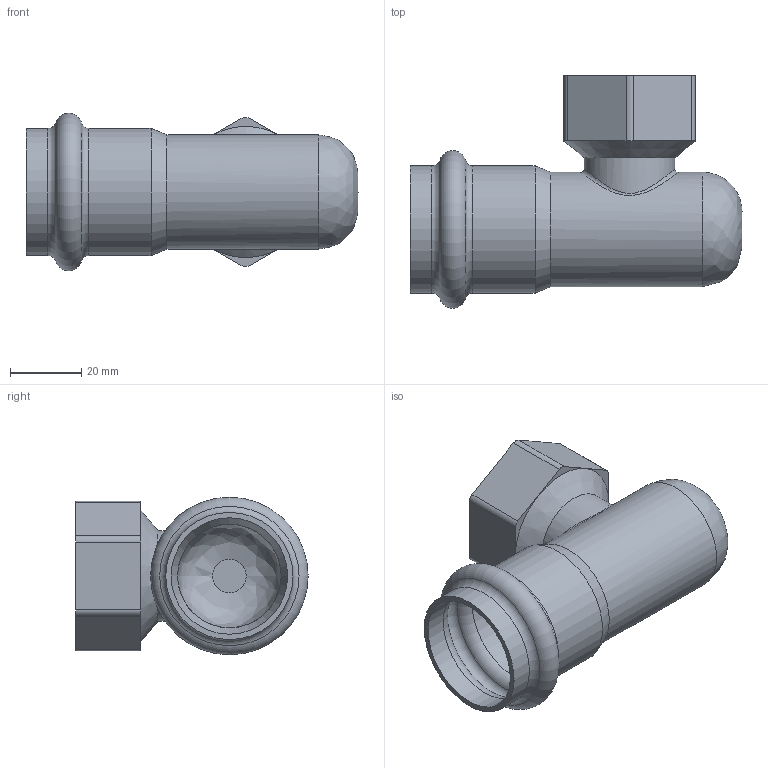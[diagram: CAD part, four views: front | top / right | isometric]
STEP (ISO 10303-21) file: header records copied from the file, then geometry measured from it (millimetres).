
FILE_DESCRIPTION(/* description */ (''),/* implementation_level */ '2;1');
FILE_NAME(/* name */ '51269030201.stp',/* time_stamp */ '2020-06-22T14:56:24+08:00',/* author */ (''),/* organization */ (''),/* preprocessor_version */ 'ST-DEVELOPER v11',/* originating_system */ 'SIEMENS PLM Software NX 7.5',/* authorisation */ '');
FILE_SCHEMA (('CONFIG_CONTROL_DESIGN'));
Length unit declared in the file: millimetre
Products named in the file (1): Admi4F60b4a5
Bounding box: 92.95 x 65.02 x 44.09 mm (x, y, z)
Volume: 24499.2 mm3; surface area: 26356.4 mm2
Topology: 1 solids, 1 shells, 40 faces, 95 edges, 58 vertices
Faces by surface type: cylinder 15, plane 11, torus 6, cone 5, bspline 3
Full cylindrical faces by diameter (mm): 23.4 x1, 25.4 x1, 29 x1, 30.3 x1, 32 x1, 32.6 x2, 35.6 x2
Entity records: 1337 total; most frequent: CARTESIAN_POINT 467, DIRECTION 168, ORIENTED_EDGE 126, AXIS2_PLACEMENT_3D 72, EDGE_LOOP 68, EDGE_CURVE 63, FACE_BOUND 54, VERTEX_POINT 51
